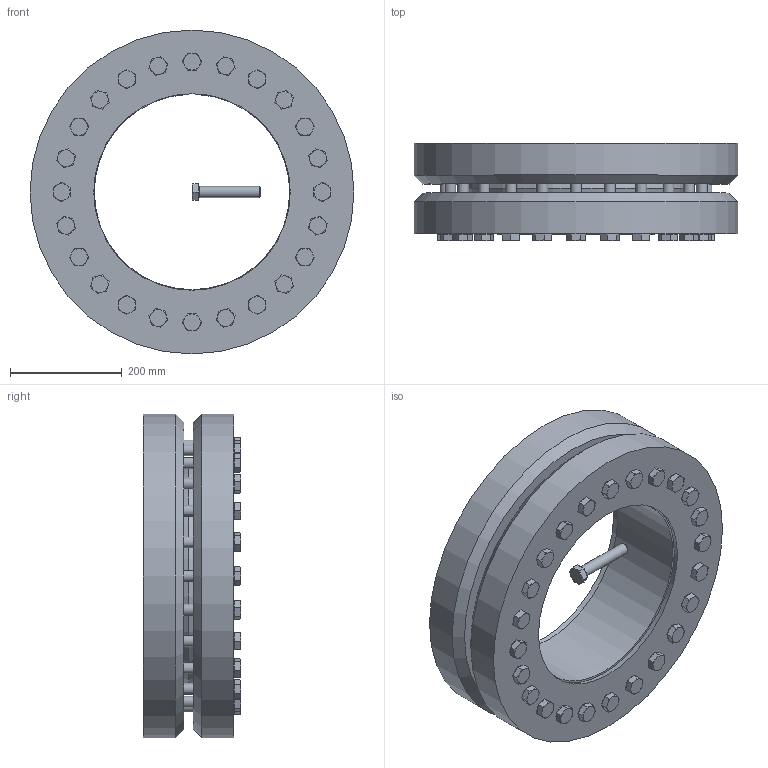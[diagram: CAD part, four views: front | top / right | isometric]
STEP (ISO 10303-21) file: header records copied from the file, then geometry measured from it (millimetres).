
FILE_DESCRIPTION( ( 'Unknown' ), '1' );
FILE_NAME( 'C:/Dokumente und Einstellungen/Sven/Desktop/homepage/cad - homepage/KBS19/KBS 19 - 350 x 580.stp', 'Unknown', ( 'Unknown' ), ( 'Unknown' ), 'XStep 1.0', 'Unknown', ' ' );
FILE_SCHEMA( ( 'automotive_design' ) );
Length unit declared in the file: millimetre
Products named in the file (3): Assem1; KBS 19 - 350 x 580; ISO 4017 - M20 x 110-N
Bounding box: 580 x 174.5 x 580 mm (x, y, z)
Volume: 47647749.9 mm3; surface area: 2751684 mm2
Topology: 27 solids, 27 shells, 767 faces, 1794 edges, 1106 vertices
Faces by surface type: plane 403, cone 187, cylinder 152, torus 25
Full cylindrical faces by diameter (mm): 20 x121, 30 x25, 580 x4
Entity records: 3672 total; most frequent: DIRECTION 550, CARTESIAN_POINT 541, ORIENTED_EDGE 380, EDGE_LOOP 255, AXIS2_PLACEMENT_3D 254, EDGE_CURVE 190, VERTEX_POINT 157, FACE_OUTER_BOUND 149
